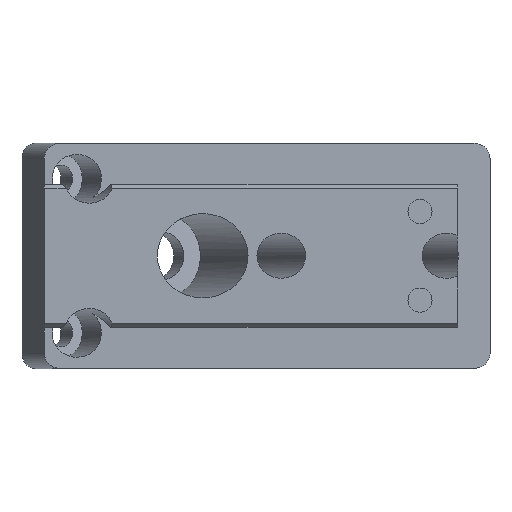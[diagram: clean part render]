
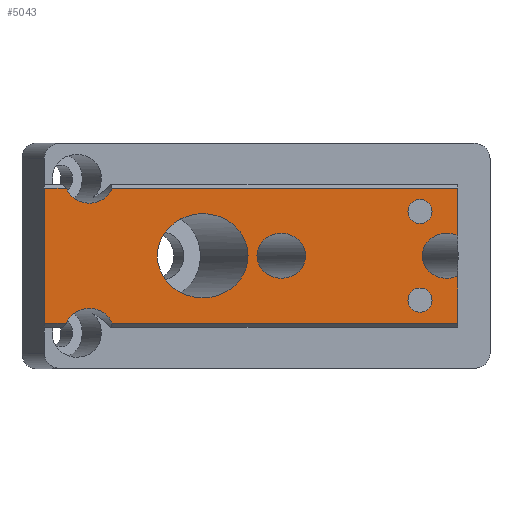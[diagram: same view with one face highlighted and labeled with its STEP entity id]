
A CAD part, top view. The second image highlights one B-rep face of the part: STEP entity #5043.
In plain terms, the highlighted planar face has unit normal (0, 0, 1).
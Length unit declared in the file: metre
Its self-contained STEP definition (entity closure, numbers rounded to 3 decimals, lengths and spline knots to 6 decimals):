
#192=ELLIPSE('',#5358,0.00604,0.0056);
#193=ELLIPSE('',#5359,0.003236,0.003);
#194=ELLIPSE('',#5362,0.003236,0.003);
#195=ELLIPSE('',#5363,0.003236,0.003);
#196=ELLIPSE('',#5364,0.003236,0.003);
#305=CIRCLE('',#5360,0.0016);
#306=CIRCLE('',#5361,0.0016);
#452=ORIENTED_EDGE('',*,*,#1996,.T.);
#453=ORIENTED_EDGE('',*,*,#1997,.T.);
#454=ORIENTED_EDGE('',*,*,#1998,.T.);
#455=ORIENTED_EDGE('',*,*,#1999,.T.);
#456=ORIENTED_EDGE('',*,*,#2000,.F.);
#457=ORIENTED_EDGE('',*,*,#2001,.T.);
#458=ORIENTED_EDGE('',*,*,#2002,.F.);
#459=ORIENTED_EDGE('',*,*,#2003,.T.);
#460=ORIENTED_EDGE('',*,*,#2004,.F.);
#461=ORIENTED_EDGE('',*,*,#2005,.T.);
#462=ORIENTED_EDGE('',*,*,#2006,.T.);
#463=ORIENTED_EDGE('',*,*,#2007,.T.);
#464=ORIENTED_EDGE('',*,*,#2008,.F.);
#465=ORIENTED_EDGE('',*,*,#2009,.T.);
#1996=EDGE_CURVE('',#2768,#2768,#192,.T.);
#1997=EDGE_CURVE('',#2769,#2769,#193,.T.);
#1998=EDGE_CURVE('',#2770,#2770,#305,.T.);
#1999=EDGE_CURVE('',#2771,#2771,#306,.T.);
#2000=EDGE_CURVE('',#2772,#2773,#3268,.T.);
#2001=EDGE_CURVE('',#2772,#2774,#194,.T.);
#2002=EDGE_CURVE('',#2775,#2774,#3269,.T.);
#2003=EDGE_CURVE('',#2775,#2776,#3270,.T.);
#2004=EDGE_CURVE('',#2777,#2776,#195,.F.);
#2005=EDGE_CURVE('',#2777,#2778,#3271,.T.);
#2006=EDGE_CURVE('',#2778,#2779,#3272,.T.);
#2007=EDGE_CURVE('',#2779,#2780,#3273,.T.);
#2008=EDGE_CURVE('',#2781,#2780,#196,.F.);
#2009=EDGE_CURVE('',#2781,#2773,#3274,.T.);
#2768=VERTEX_POINT('',#7045);
#2769=VERTEX_POINT('',#7047);
#2770=VERTEX_POINT('',#7049);
#2771=VERTEX_POINT('',#7051);
#2772=VERTEX_POINT('',#7053);
#2773=VERTEX_POINT('',#7054);
#2774=VERTEX_POINT('',#7056);
#2775=VERTEX_POINT('',#7058);
#2776=VERTEX_POINT('',#7060);
#2777=VERTEX_POINT('',#7062);
#2778=VERTEX_POINT('',#7064);
#2779=VERTEX_POINT('',#7066);
#2780=VERTEX_POINT('',#7068);
#2781=VERTEX_POINT('',#7070);
#3268=LINE('',#7052,#3769);
#3269=LINE('',#7057,#3770);
#3270=LINE('',#7059,#3771);
#3271=LINE('',#7063,#3772);
#3272=LINE('',#7065,#3773);
#3273=LINE('',#7067,#3774);
#3274=LINE('',#7071,#3775);
#3769=VECTOR('',#5786,1.);
#3770=VECTOR('',#5789,1.);
#3771=VECTOR('',#5790,1.);
#3772=VECTOR('',#5793,1.);
#3773=VECTOR('',#5794,1.);
#3774=VECTOR('',#5795,1.);
#3775=VECTOR('',#5798,1.);
#4257=EDGE_LOOP('',(#452));
#4258=EDGE_LOOP('',(#453));
#4259=EDGE_LOOP('',(#454));
#4260=EDGE_LOOP('',(#455));
#4261=EDGE_LOOP('',(#456,#457,#458,#459,#460,#461,#462,#463,#464,#465));
#4576=FACE_BOUND('',#4257,.T.);
#4577=FACE_BOUND('',#4258,.T.);
#4578=FACE_BOUND('',#4259,.T.);
#4579=FACE_BOUND('',#4260,.T.);
#4580=FACE_BOUND('',#4261,.T.);
#4887=PLANE('',#5357);
#5043=ADVANCED_FACE('',(#4576,#4577,#4578,#4579,#4580),#4887,.F.);
#5357=AXIS2_PLACEMENT_3D('',#7043,#5776,#5777);
#5358=AXIS2_PLACEMENT_3D('',#7044,#5778,#5779);
#5359=AXIS2_PLACEMENT_3D('',#7046,#5780,#5781);
#5360=AXIS2_PLACEMENT_3D('',#7048,#5782,#5783);
#5361=AXIS2_PLACEMENT_3D('',#7050,#5784,#5785);
#5362=AXIS2_PLACEMENT_3D('',#7055,#5787,#5788);
#5363=AXIS2_PLACEMENT_3D('',#7061,#5791,#5792);
#5364=AXIS2_PLACEMENT_3D('',#7069,#5796,#5797);
#5776=DIRECTION('',(0.,0.,-1.));
#5777=DIRECTION('',(-1.,0.,0.));
#5778=DIRECTION('',(0.,0.,-1.));
#5779=DIRECTION('',(-1.,0.,0.));
#5780=DIRECTION('',(0.,0.,-1.));
#5781=DIRECTION('',(-1.,0.,0.));
#5782=DIRECTION('',(0.,0.,-1.));
#5783=DIRECTION('',(-1.,0.,0.));
#5784=DIRECTION('',(0.,0.,-1.));
#5785=DIRECTION('',(-1.,0.,0.));
#5786=DIRECTION('',(0.,-1.,0.));
#5787=DIRECTION('',(0.,0.,-1.));
#5788=DIRECTION('',(-1.,0.,0.));
#5789=DIRECTION('',(0.,-1.,0.));
#5790=DIRECTION('',(-1.,0.,0.));
#5791=DIRECTION('',(0.,0.,-1.));
#5792=DIRECTION('',(-1.,0.,0.));
#5793=DIRECTION('',(-1.,0.,0.));
#5794=DIRECTION('',(0.,-1.,0.));
#5795=DIRECTION('',(1.,0.,0.));
#5796=DIRECTION('',(0.,0.,-1.));
#5797=DIRECTION('',(-1.,0.,0.));
#5798=DIRECTION('',(1.,0.,0.));
#7043=CARTESIAN_POINT('',(0.055,0.,0.0041));
#7044=CARTESIAN_POINT('',(0.02107,0.,0.0041));
#7045=CARTESIAN_POINT('',(0.01503,0.,0.0041));
#7046=CARTESIAN_POINT('',(0.031532,0.,0.0041));
#7047=CARTESIAN_POINT('',(0.028296,0.,0.0041));
#7048=CARTESIAN_POINT('',(0.05,0.0059,0.0041));
#7049=CARTESIAN_POINT('',(0.0484,0.0059,0.0041));
#7050=CARTESIAN_POINT('',(0.05,-0.0059,0.0041));
#7051=CARTESIAN_POINT('',(0.0484,-0.0059,0.0041));
#7052=CARTESIAN_POINT('',(0.055,0.,0.0041));
#7053=CARTESIAN_POINT('',(0.055,-0.002674,0.0041));
#7054=CARTESIAN_POINT('',(0.055,-0.009004,0.0041));
#7055=CARTESIAN_POINT('',(0.053534,0.,0.0041));
#7056=CARTESIAN_POINT('',(0.055,0.002674,0.0041));
#7057=CARTESIAN_POINT('',(0.055,0.,0.0041));
#7058=CARTESIAN_POINT('',(0.055,0.009004,0.0041));
#7059=CARTESIAN_POINT('',(0.,0.009004,0.0041));
#7060=CARTESIAN_POINT('',(0.009023,0.009004,0.0041));
#7061=CARTESIAN_POINT('',(0.005971,0.01,0.0041));
#7062=CARTESIAN_POINT('',(0.002918,0.009004,0.0041));
#7063=CARTESIAN_POINT('',(0.,0.009004,0.0041));
#7064=CARTESIAN_POINT('',(0.,0.009004,0.0041));
#7065=CARTESIAN_POINT('',(0.,0.,0.0041));
#7066=CARTESIAN_POINT('',(0.,-0.009004,0.0041));
#7067=CARTESIAN_POINT('',(0.055,-0.009004,0.0041));
#7068=CARTESIAN_POINT('',(0.002918,-0.009004,0.0041));
#7069=CARTESIAN_POINT('',(0.005971,-0.01,0.0041));
#7070=CARTESIAN_POINT('',(0.009023,-0.009004,0.0041));
#7071=CARTESIAN_POINT('',(0.055,-0.009004,0.0041));
